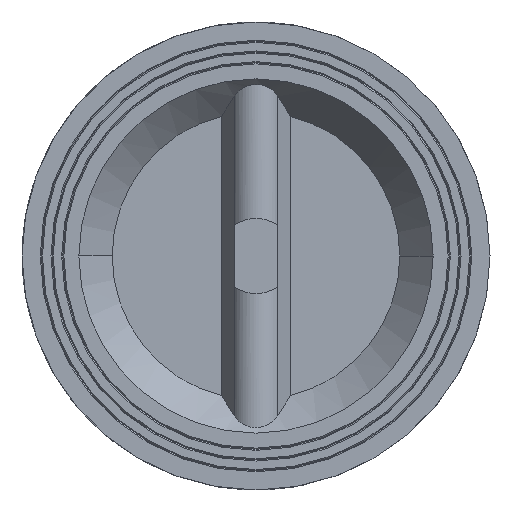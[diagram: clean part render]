
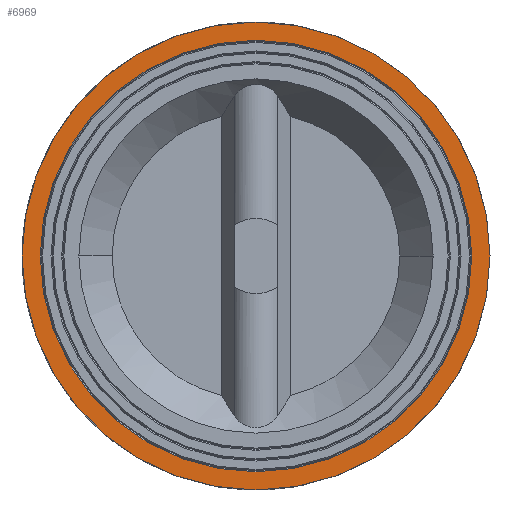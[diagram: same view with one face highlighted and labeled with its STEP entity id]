
A CAD part, front view. The second image highlights one B-rep face of the part: STEP entity #6969.
In plain terms, the highlighted planar face has unit normal (0, -1, 0).
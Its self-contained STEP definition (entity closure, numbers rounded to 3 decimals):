
#352 = EDGE_CURVE ( 'NONE', #7429, #919, #3117, .T. ) ;
#566 = CIRCLE ( 'NONE', #10180, 100.5 ) ;
#919 = VERTEX_POINT ( 'NONE', #8552 ) ;
#1126 = FACE_BOUND ( 'NONE', #5451, .T. ) ;
#1148 = EDGE_CURVE ( 'NONE', #919, #7429, #566, .T. ) ;
#1508 = CARTESIAN_POINT ( 'NONE',  ( 3727.432, 1076.478, 0. ) ) ;
#1634 = ORIENTED_EDGE ( 'NONE', *, *, #352, .T. ) ;
#1837 = CARTESIAN_POINT ( 'NONE',  ( 3727.432, 1076.478, 0. ) ) ;
#2180 = EDGE_CURVE ( 'NONE', #8659, #10426, #8067, .T. ) ;
#2478 = CARTESIAN_POINT ( 'NONE',  ( 3618.432, 1076.478, 0. ) ) ;
#3117 = CIRCLE ( 'NONE', #7578, 100.5 ) ;
#3335 = CARTESIAN_POINT ( 'NONE',  ( 3727.432, 1076.478, 0. ) ) ;
#3366 = DIRECTION ( 'NONE',  ( 0., 1., 0. ) ) ;
#3774 = EDGE_CURVE ( 'NONE', #10426, #8659, #4327, .T. ) ;
#4089 = CARTESIAN_POINT ( 'NONE',  ( 3727.432, 1076.478, 0. ) ) ;
#4327 = CIRCLE ( 'NONE', #5828, 109. ) ;
#4779 = DIRECTION ( 'NONE',  ( -1., 0., 0. ) ) ;
#5054 = CARTESIAN_POINT ( 'NONE',  ( 3836.432, 1076.478, 0. ) ) ;
#5451 = EDGE_LOOP ( 'NONE', ( #1634, #10226 ) ) ;
#5828 = AXIS2_PLACEMENT_3D ( 'NONE', #4089, #6537, #6612 ) ;
#6056 = ORIENTED_EDGE ( 'NONE', *, *, #3774, .F. ) ;
#6064 = CARTESIAN_POINT ( 'NONE',  ( 3827.932, 1076.478, 0. ) ) ;
#6377 = DIRECTION ( 'NONE',  ( 0., 1., 0. ) ) ;
#6537 = DIRECTION ( 'NONE',  ( 0., 1., 0. ) ) ;
#6612 = DIRECTION ( 'NONE',  ( -1., 0., 0. ) ) ;
#6969 = ADVANCED_FACE ( 'NONE', ( #1126, #8509 ), #7514, .T. ) ;
#6970 = EDGE_LOOP ( 'NONE', ( #6056, #8212 ) ) ;
#7056 = AXIS2_PLACEMENT_3D ( 'NONE', #1837, #8856, #4779 ) ;
#7429 = VERTEX_POINT ( 'NONE', #6064 ) ;
#7514 = PLANE ( 'NONE',  #8269 ) ;
#7578 = AXIS2_PLACEMENT_3D ( 'NONE', #3335, #3366, #9045 ) ;
#8067 = CIRCLE ( 'NONE', #7056, 109. ) ;
#8212 = ORIENTED_EDGE ( 'NONE', *, *, #2180, .F. ) ;
#8269 = AXIS2_PLACEMENT_3D ( 'NONE', #9961, #8330, #9858 ) ;
#8330 = DIRECTION ( 'NONE',  ( 0., -1., 0. ) ) ;
#8509 = FACE_OUTER_BOUND ( 'NONE', #6970, .T. ) ;
#8552 = CARTESIAN_POINT ( 'NONE',  ( 3626.932, 1076.478, 0. ) ) ;
#8659 = VERTEX_POINT ( 'NONE', #5054 ) ;
#8704 = DIRECTION ( 'NONE',  ( -1., 0., 0. ) ) ;
#8856 = DIRECTION ( 'NONE',  ( 0., 1., 0. ) ) ;
#9045 = DIRECTION ( 'NONE',  ( -1., 0., 0. ) ) ;
#9858 = DIRECTION ( 'NONE',  ( 1., 0., 0. ) ) ;
#9961 = CARTESIAN_POINT ( 'NONE',  ( 0., 1076.478, 0. ) ) ;
#10180 = AXIS2_PLACEMENT_3D ( 'NONE', #1508, #6377, #8704 ) ;
#10226 = ORIENTED_EDGE ( 'NONE', *, *, #1148, .T. ) ;
#10426 = VERTEX_POINT ( 'NONE', #2478 ) ;
